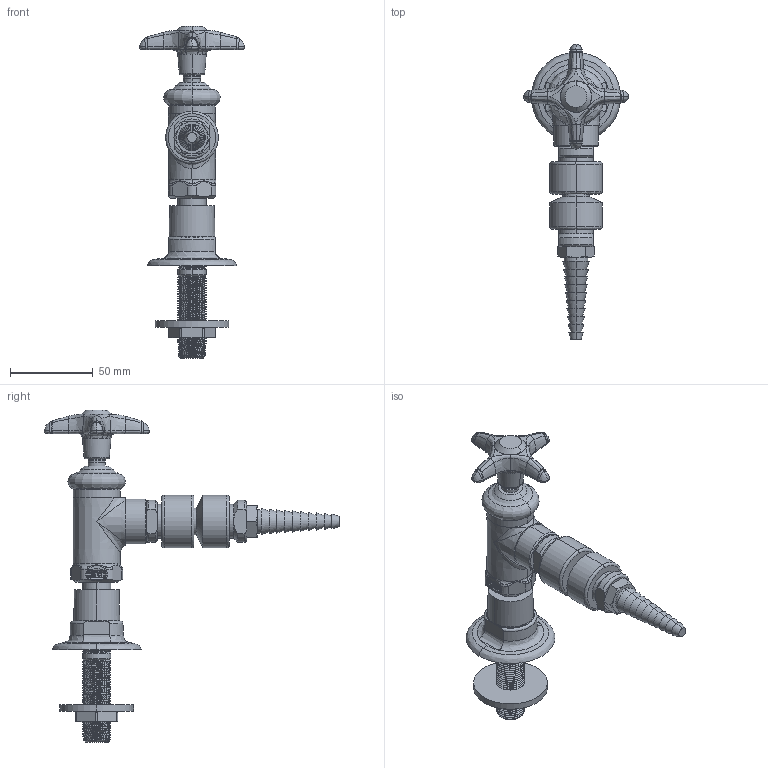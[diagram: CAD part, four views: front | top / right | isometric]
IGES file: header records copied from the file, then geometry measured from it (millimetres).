
Start section:  PTC IGES file: LWV2-C44-55.igs
Global section: file name: LWV2-C44-55.igs; native system: Creo Parametric by PTC Inc.; preprocessor: 2014500; author: usch_engrender; organization: Unknown; date: 20151118.094430; units: inch
Bounding box: 63.42 x 178.42 x 200.32 mm (x, y, z)
Volume: 165215.7 mm3; surface area: 39103.8 mm2
Topology: 1 solids, 3 shells, 609 faces, 1441 edges, 867 vertices
Faces by surface type: bspline 311, revolution 298
